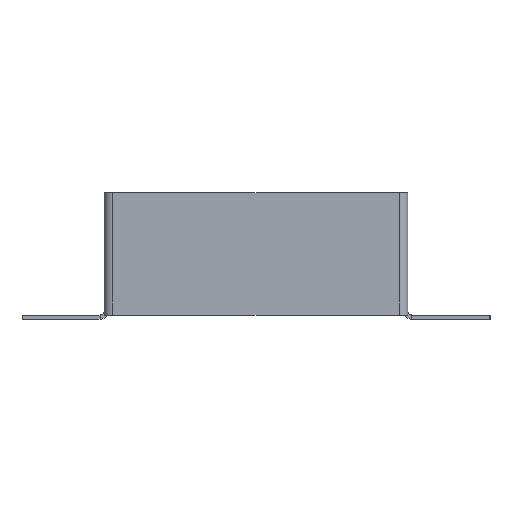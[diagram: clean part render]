
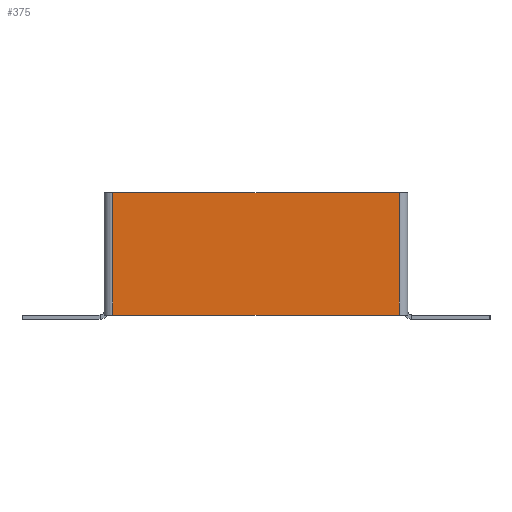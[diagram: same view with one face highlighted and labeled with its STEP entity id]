
A CAD part, front view. The second image highlights one B-rep face of the part: STEP entity #375.
In plain terms, the highlighted planar face has unit normal (0, -1, 0).
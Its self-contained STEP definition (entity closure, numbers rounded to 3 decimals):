
#365 = CARTESIAN_POINT ( 'NONE',  ( -68., -2., -58. ) ) ;
#375 = ADVANCED_FACE ( 'NONE', ( #1247 ), #6517, .F. ) ;
#442 = DIRECTION ( 'NONE',  ( -1., 0., 0. ) ) ;
#914 = VECTOR ( 'NONE', #442, 1000. ) ;
#980 = CARTESIAN_POINT ( 'NONE',  ( -68., -2., 0. ) ) ;
#1153 = VECTOR ( 'NONE', #5689, 1000. ) ;
#1247 = FACE_OUTER_BOUND ( 'NONE', #3160, .T. ) ;
#1250 = CARTESIAN_POINT ( 'NONE',  ( 0., -2., 0. ) ) ;
#1305 = EDGE_CURVE ( 'NONE', #1417, #2338, #3755, .T. ) ;
#1417 = VERTEX_POINT ( 'NONE', #3389 ) ;
#1430 = VERTEX_POINT ( 'NONE', #1459 ) ;
#1447 = EDGE_CURVE ( 'NONE', #1430, #2338, #2093, .T. ) ;
#1459 = CARTESIAN_POINT ( 'NONE',  ( 68., -2., -58. ) ) ;
#1801 = EDGE_CURVE ( 'NONE', #1430, #3514, #3991, .T. ) ;
#2093 = LINE ( 'NONE', #4639, #914 ) ;
#2235 = CARTESIAN_POINT ( 'NONE',  ( -70., -2., 0. ) ) ;
#2338 = VERTEX_POINT ( 'NONE', #365 ) ;
#2340 = VECTOR ( 'NONE', #5780, 1000. ) ;
#2929 = ORIENTED_EDGE ( 'NONE', *, *, #4369, .F. ) ;
#3160 = EDGE_LOOP ( 'NONE', ( #3439, #3764, #3211, #2929 ) ) ;
#3211 = ORIENTED_EDGE ( 'NONE', *, *, #1801, .T. ) ;
#3225 = DIRECTION ( 'NONE',  ( 1., 0., 0. ) ) ;
#3389 = CARTESIAN_POINT ( 'NONE',  ( -68., -2., 0. ) ) ;
#3439 = ORIENTED_EDGE ( 'NONE', *, *, #1305, .T. ) ;
#3514 = VERTEX_POINT ( 'NONE', #6844 ) ;
#3698 = AXIS2_PLACEMENT_3D ( 'NONE', #1250, #3974, #5043 ) ;
#3755 = LINE ( 'NONE', #980, #2340 ) ;
#3764 = ORIENTED_EDGE ( 'NONE', *, *, #1447, .F. ) ;
#3896 = LINE ( 'NONE', #2235, #4236 ) ;
#3974 = DIRECTION ( 'NONE',  ( 0., 1., 0. ) ) ;
#3991 = LINE ( 'NONE', #6718, #1153 ) ;
#4236 = VECTOR ( 'NONE', #3225, 1000. ) ;
#4369 = EDGE_CURVE ( 'NONE', #1417, #3514, #3896, .T. ) ;
#4639 = CARTESIAN_POINT ( 'NONE',  ( -70., -2., -58. ) ) ;
#5043 = DIRECTION ( 'NONE',  ( 0., 0., 1. ) ) ;
#5689 = DIRECTION ( 'NONE',  ( 0., 0., 1. ) ) ;
#5780 = DIRECTION ( 'NONE',  ( 0., 0., -1. ) ) ;
#6517 = PLANE ( 'NONE',  #3698 ) ;
#6718 = CARTESIAN_POINT ( 'NONE',  ( 68., -2., -58. ) ) ;
#6844 = CARTESIAN_POINT ( 'NONE',  ( 68., -2., 0. ) ) ;
